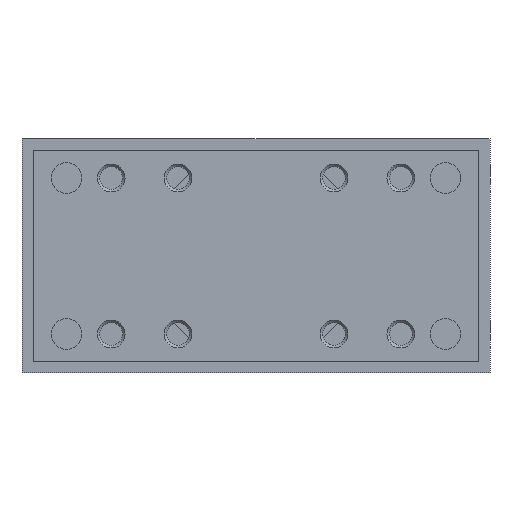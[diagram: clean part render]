
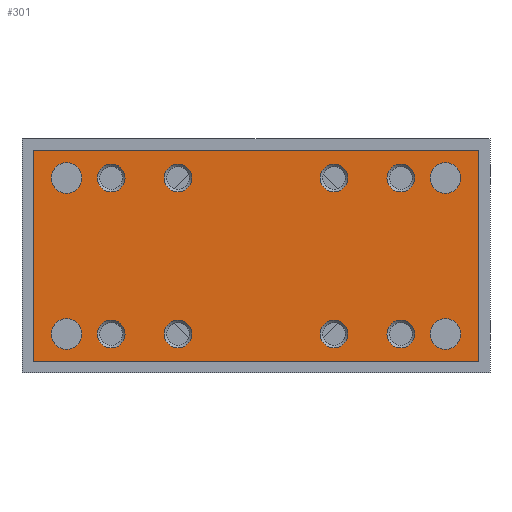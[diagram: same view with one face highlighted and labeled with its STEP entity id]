
A CAD part, left-side view. The second image highlights one B-rep face of the part: STEP entity #301.
In plain terms, the highlighted planar face has unit normal (-1, 0, 0).
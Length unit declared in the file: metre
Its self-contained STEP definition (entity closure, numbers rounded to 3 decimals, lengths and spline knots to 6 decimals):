
#301 = ADVANCED_FACE( '', ( #766, #767, #768, #769, #770, #771, #772, #773, #774, #775, #776, #777, #778 ), #779, .T. );
#766 = FACE_BOUND( '', #1500, .T. );
#767 = FACE_BOUND( '', #1501, .T. );
#768 = FACE_BOUND( '', #1502, .T. );
#769 = FACE_BOUND( '', #1503, .T. );
#770 = FACE_BOUND( '', #1504, .T. );
#771 = FACE_BOUND( '', #1505, .T. );
#772 = FACE_BOUND( '', #1506, .T. );
#773 = FACE_BOUND( '', #1507, .T. );
#774 = FACE_BOUND( '', #1508, .T. );
#775 = FACE_BOUND( '', #1509, .T. );
#776 = FACE_BOUND( '', #1510, .T. );
#777 = FACE_BOUND( '', #1511, .T. );
#778 = FACE_OUTER_BOUND( '', #1512, .T. );
#779 = PLANE( '', #1513 );
#1500 = EDGE_LOOP( '', ( #2367 ) );
#1501 = EDGE_LOOP( '', ( #2368 ) );
#1502 = EDGE_LOOP( '', ( #2369 ) );
#1503 = EDGE_LOOP( '', ( #2370 ) );
#1504 = EDGE_LOOP( '', ( #2371 ) );
#1505 = EDGE_LOOP( '', ( #2372 ) );
#1506 = EDGE_LOOP( '', ( #2373 ) );
#1507 = EDGE_LOOP( '', ( #2374 ) );
#1508 = EDGE_LOOP( '', ( #2375 ) );
#1509 = EDGE_LOOP( '', ( #2376 ) );
#1510 = EDGE_LOOP( '', ( #2377 ) );
#1511 = EDGE_LOOP( '', ( #2378 ) );
#1512 = EDGE_LOOP( '', ( #2379, #2380, #2381, #2382 ) );
#1513 = AXIS2_PLACEMENT_3D( '', #2383, #2384, #2385 );
#2367 = ORIENTED_EDGE( '', *, *, #3422, .F. );
#2368 = ORIENTED_EDGE( '', *, *, #3449, .F. );
#2369 = ORIENTED_EDGE( '', *, *, #3450, .F. );
#2370 = ORIENTED_EDGE( '', *, *, #3451, .F. );
#2371 = ORIENTED_EDGE( '', *, *, #3344, .T. );
#2372 = ORIENTED_EDGE( '', *, *, #3334, .F. );
#2373 = ORIENTED_EDGE( '', *, *, #3452, .F. );
#2374 = ORIENTED_EDGE( '', *, *, #3453, .T. );
#2375 = ORIENTED_EDGE( '', *, *, #3454, .T. );
#2376 = ORIENTED_EDGE( '', *, *, #3455, .F. );
#2377 = ORIENTED_EDGE( '', *, *, #3456, .F. );
#2378 = ORIENTED_EDGE( '', *, *, #3457, .T. );
#2379 = ORIENTED_EDGE( '', *, *, #3458, .T. );
#2380 = ORIENTED_EDGE( '', *, *, #3459, .T. );
#2381 = ORIENTED_EDGE( '', *, *, #3460, .T. );
#2382 = ORIENTED_EDGE( '', *, *, #3414, .T. );
#2383 = CARTESIAN_POINT( '', ( -0.062, -0.04, -0.002 ) );
#2384 = DIRECTION( '', ( -1., 0., 0. ) );
#2385 = DIRECTION( '', ( 0., -1., 0. ) );
#3334 = EDGE_CURVE( '', #3826, #3826, #3827, .T. );
#3344 = EDGE_CURVE( '', #3842, #3842, #3843, .T. );
#3414 = EDGE_CURVE( '', #3953, #3951, #3954, .T. );
#3422 = EDGE_CURVE( '', #3965, #3965, #3966, .T. );
#3449 = EDGE_CURVE( '', #4008, #4008, #4009, .T. );
#3450 = EDGE_CURVE( '', #4010, #4010, #4011, .T. );
#3451 = EDGE_CURVE( '', #4012, #4012, #4013, .T. );
#3452 = EDGE_CURVE( '', #4014, #4014, #4015, .T. );
#3453 = EDGE_CURVE( '', #4016, #4016, #4017, .T. );
#3454 = EDGE_CURVE( '', #4018, #4018, #4019, .T. );
#3455 = EDGE_CURVE( '', #4020, #4020, #4021, .T. );
#3456 = EDGE_CURVE( '', #4022, #4022, #4023, .T. );
#3457 = EDGE_CURVE( '', #4024, #4024, #4025, .T. );
#3458 = EDGE_CURVE( '', #3951, #4026, #4027, .T. );
#3459 = EDGE_CURVE( '', #4026, #4028, #4029, .T. );
#3460 = EDGE_CURVE( '', #4028, #3953, #4030, .T. );
#3826 = VERTEX_POINT( '', #4537 );
#3827 = CIRCLE( '', #4538, 0.0025 );
#3842 = VERTEX_POINT( '', #4556 );
#3843 = CIRCLE( '', #4557, 0.0025 );
#3951 = VERTEX_POINT( '', #5004 );
#3953 = VERTEX_POINT( '', #5007 );
#3954 = LINE( '', #5008, #5009 );
#3965 = VERTEX_POINT( '', #5021 );
#3966 = CIRCLE( '', #5022, 0.00275 );
#4008 = VERTEX_POINT( '', #5311 );
#4009 = CIRCLE( '', #5312, 0.00275 );
#4010 = VERTEX_POINT( '', #5313 );
#4011 = CIRCLE( '', #5314, 0.00275 );
#4012 = VERTEX_POINT( '', #5315 );
#4013 = CIRCLE( '', #5316, 0.00275 );
#4014 = VERTEX_POINT( '', #5317 );
#4015 = CIRCLE( '', #5318, 0.0025 );
#4016 = VERTEX_POINT( '', #5319 );
#4017 = CIRCLE( '', #5320, 0.0025 );
#4018 = VERTEX_POINT( '', #5321 );
#4019 = CIRCLE( '', #5322, 0.0025 );
#4020 = VERTEX_POINT( '', #5323 );
#4021 = CIRCLE( '', #5324, 0.0025 );
#4022 = VERTEX_POINT( '', #5325 );
#4023 = CIRCLE( '', #5326, 0.0025 );
#4024 = VERTEX_POINT( '', #5327 );
#4025 = CIRCLE( '', #5328, 0.0025 );
#4026 = VERTEX_POINT( '', #5329 );
#4027 = LINE( '', #5330, #5331 );
#4028 = VERTEX_POINT( '', #5332 );
#4029 = LINE( '', #5333, #5334 );
#4030 = LINE( '', #5335, #5336 );
#4537 = CARTESIAN_POINT( '', ( -0.062, 0.026, -0.0375 ) );
#4538 = AXIS2_PLACEMENT_3D( '', #6048, #6049, #6050 );
#4556 = CARTESIAN_POINT( '', ( -0.062, -0.026, -0.0375 ) );
#4557 = AXIS2_PLACEMENT_3D( '', #6063, #6064, #6065 );
#5004 = CARTESIAN_POINT( '', ( -0.062, -0.04, -0.04 ) );
#5007 = CARTESIAN_POINT( '', ( -0.062, 0.04, -0.04 ) );
#5008 = CARTESIAN_POINT( '', ( -0.062, 0.04, -0.04 ) );
#5009 = VECTOR( '', #6166, 1. );
#5021 = CARTESIAN_POINT( '', ( -0.062, -0.03675, -0.035 ) );
#5022 = AXIS2_PLACEMENT_3D( '', #6177, #6178, #6179 );
#5311 = CARTESIAN_POINT( '', ( -0.062, 0.03125, -0.035 ) );
#5312 = AXIS2_PLACEMENT_3D( '', #6213, #6214, #6215 );
#5313 = CARTESIAN_POINT( '', ( -0.062, -0.03675, -0.007 ) );
#5314 = AXIS2_PLACEMENT_3D( '', #6216, #6217, #6218 );
#5315 = CARTESIAN_POINT( '', ( -0.062, 0.03125, -0.007 ) );
#5316 = AXIS2_PLACEMENT_3D( '', #6219, #6220, #6221 );
#5317 = CARTESIAN_POINT( '', ( -0.062, -0.026, -0.0045 ) );
#5318 = AXIS2_PLACEMENT_3D( '', #6222, #6223, #6224 );
#5319 = CARTESIAN_POINT( '', ( -0.062, 0.026, -0.0045 ) );
#5320 = AXIS2_PLACEMENT_3D( '', #6225, #6226, #6227 );
#5321 = CARTESIAN_POINT( '', ( -0.062, -0.014, -0.0375 ) );
#5322 = AXIS2_PLACEMENT_3D( '', #6228, #6229, #6230 );
#5323 = CARTESIAN_POINT( '', ( -0.062, 0.014, -0.0375 ) );
#5324 = AXIS2_PLACEMENT_3D( '', #6231, #6232, #6233 );
#5325 = CARTESIAN_POINT( '', ( -0.062, -0.014, -0.0045 ) );
#5326 = AXIS2_PLACEMENT_3D( '', #6234, #6235, #6236 );
#5327 = CARTESIAN_POINT( '', ( -0.062, 0.014, -0.0045 ) );
#5328 = AXIS2_PLACEMENT_3D( '', #6237, #6238, #6239 );
#5329 = CARTESIAN_POINT( '', ( -0.062, -0.04, -0.002 ) );
#5330 = CARTESIAN_POINT( '', ( -0.062, -0.04, -0.04 ) );
#5331 = VECTOR( '', #6240, 1. );
#5332 = CARTESIAN_POINT( '', ( -0.062, 0.04, -0.002 ) );
#5333 = CARTESIAN_POINT( '', ( -0.062, -0.04, -0.002 ) );
#5334 = VECTOR( '', #6241, 1. );
#5335 = CARTESIAN_POINT( '', ( -0.062, 0.04, -0.002 ) );
#5336 = VECTOR( '', #6242, 1. );
#6048 = CARTESIAN_POINT( '', ( -0.062, 0.026, -0.035 ) );
#6049 = DIRECTION( '', ( -1., 0., 0. ) );
#6050 = DIRECTION( '', ( 0., 0., -1. ) );
#6063 = CARTESIAN_POINT( '', ( -0.062, -0.026, -0.035 ) );
#6064 = DIRECTION( '', ( 1., 0., 0. ) );
#6065 = DIRECTION( '', ( 0., 0., -1. ) );
#6166 = DIRECTION( '', ( 0., -1., 0. ) );
#6177 = CARTESIAN_POINT( '', ( -0.062, -0.034, -0.035 ) );
#6178 = DIRECTION( '', ( -1., 0., 0. ) );
#6179 = DIRECTION( '', ( 0., -1., 0. ) );
#6213 = CARTESIAN_POINT( '', ( -0.062, 0.034, -0.035 ) );
#6214 = DIRECTION( '', ( -1., 0., 0. ) );
#6215 = DIRECTION( '', ( 0., -1., 0. ) );
#6216 = CARTESIAN_POINT( '', ( -0.062, -0.034, -0.007 ) );
#6217 = DIRECTION( '', ( -1., 0., 0. ) );
#6218 = DIRECTION( '', ( 0., -1., 0. ) );
#6219 = CARTESIAN_POINT( '', ( -0.062, 0.034, -0.007 ) );
#6220 = DIRECTION( '', ( -1., 0., 0. ) );
#6221 = DIRECTION( '', ( 0., -1., 0. ) );
#6222 = CARTESIAN_POINT( '', ( -0.062, -0.026, -0.007 ) );
#6223 = DIRECTION( '', ( -1., 0., 0. ) );
#6224 = DIRECTION( '', ( 0., 0., 1. ) );
#6225 = CARTESIAN_POINT( '', ( -0.062, 0.026, -0.007 ) );
#6226 = DIRECTION( '', ( 1., 0., 0. ) );
#6227 = DIRECTION( '', ( 0., 0., 1. ) );
#6228 = CARTESIAN_POINT( '', ( -0.062, -0.014, -0.035 ) );
#6229 = DIRECTION( '', ( 1., 0., 0. ) );
#6230 = DIRECTION( '', ( 0., 0., -1. ) );
#6231 = CARTESIAN_POINT( '', ( -0.062, 0.014, -0.035 ) );
#6232 = DIRECTION( '', ( -1., 0., 0. ) );
#6233 = DIRECTION( '', ( 0., 0., -1. ) );
#6234 = CARTESIAN_POINT( '', ( -0.062, -0.014, -0.007 ) );
#6235 = DIRECTION( '', ( -1., 0., 0. ) );
#6236 = DIRECTION( '', ( 0., 0., 1. ) );
#6237 = CARTESIAN_POINT( '', ( -0.062, 0.014, -0.007 ) );
#6238 = DIRECTION( '', ( 1., 0., 0. ) );
#6239 = DIRECTION( '', ( 0., 0., 1. ) );
#6240 = DIRECTION( '', ( 0., 0., 1. ) );
#6241 = DIRECTION( '', ( 0., 1., 0. ) );
#6242 = DIRECTION( '', ( 0., 0., -1. ) );
